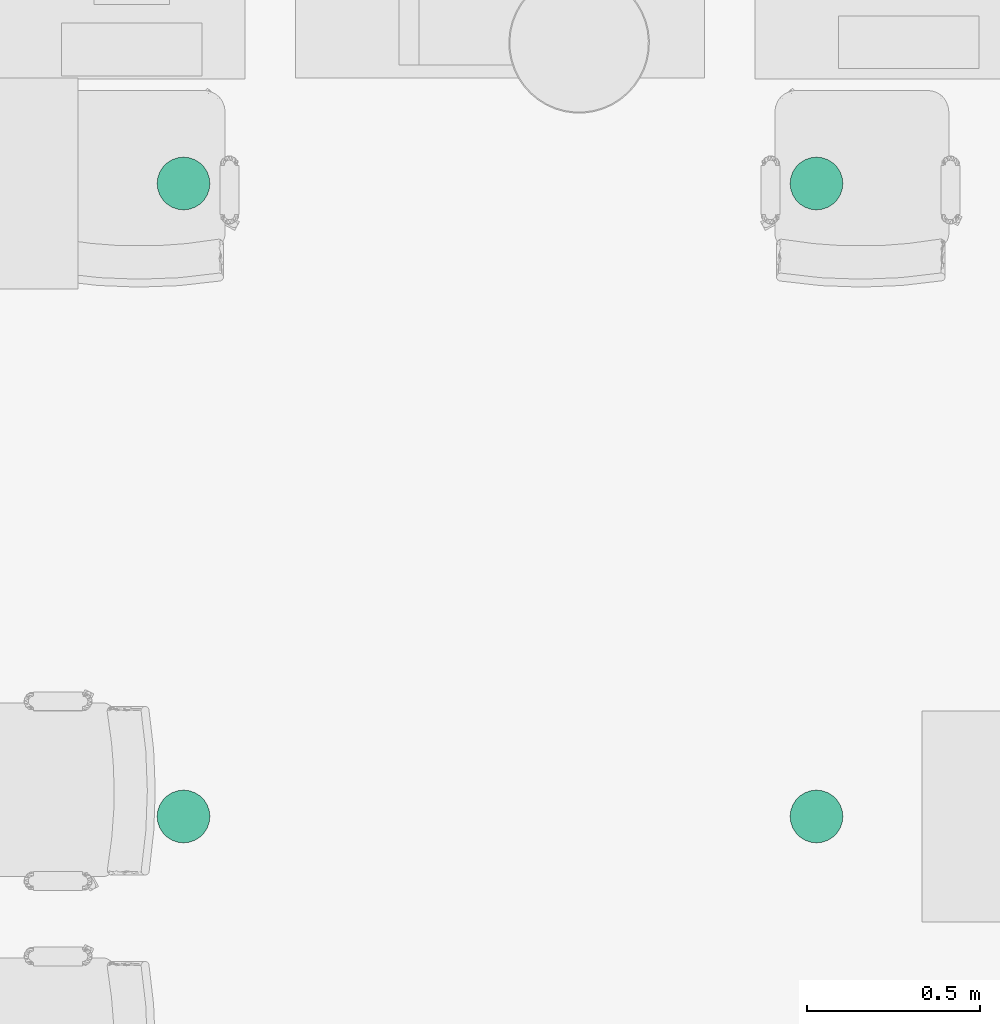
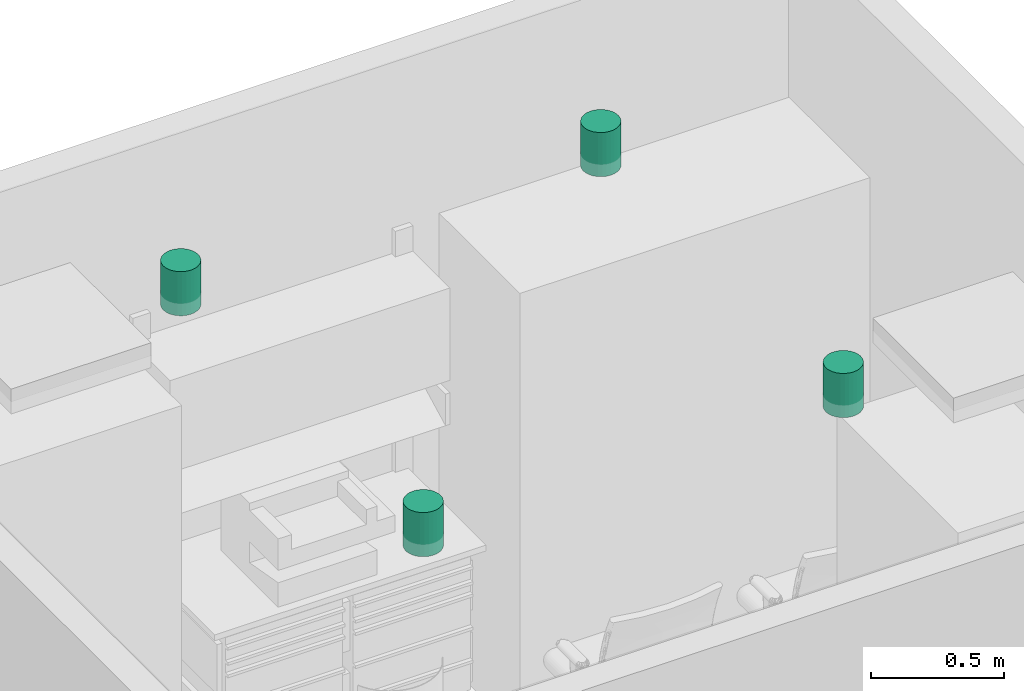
# One storey, part 4 of 15: 4 flow terminals.
"""IFC2X3 building model written with IfcOpenShell, lengths in feet."""

from ifc_helpers import new_model, entity, si_unit, converted_unit, derived_unit, direction, frame, frame_2d, origin, place, context, subcontext, project, spatial, circle, extrude, source, transform, mapped, type_object, type_shapes, element, save


model = new_model("IFC2X3")

# Units and contexts
model_context = context("Model", 3, precision=0.0001, world=origin(), true_north=direction((6.12303176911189e-17, 1.0)))
body_context = subcontext(model_context, "Body", "Model", "MODEL_VIEW")
ifc_project = project(units=[converted_unit("LENGTHUNIT", "FOOT", entity("IfcRatioMeasure", 0.3048), si_unit("LENGTHUNIT", "METRE"), dimensions=[1, 0, 0, 0, 0, 0, 0]), converted_unit("AREAUNIT", "SQUARE FOOT", entity("IfcRatioMeasure", 0.09290304), si_unit("AREAUNIT", "SQUARE_METRE"), dimensions=[2, 0, 0, 0, 0, 0, 0]), converted_unit("VOLUMEUNIT", "CUBIC FOOT", entity("IfcRatioMeasure", 0.028316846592), si_unit("VOLUMEUNIT", "CUBIC_METRE"), dimensions=[3, 0, 0, 0, 0, 0, 0]), converted_unit("PLANEANGLEUNIT", "DEGREE", entity("IfcRatioMeasure", 0.0174532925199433), si_unit("PLANEANGLEUNIT", "RADIAN"), dimensions=[0, 0, 0, 0, 0, 0, 0]), si_unit("MASSUNIT", "GRAM", prefix="KILO"), derived_unit("MASSDENSITYUNIT", [(si_unit("MASSUNIT", "GRAM", prefix="KILO"), 1), (si_unit("LENGTHUNIT", "METRE"), -3)]), si_unit("TIMEUNIT", "SECOND"), si_unit("FREQUENCYUNIT", "HERTZ"), si_unit("THERMODYNAMICTEMPERATUREUNIT", "DEGREE_CELSIUS"), derived_unit("THERMALTRANSMITTANCEUNIT", [(si_unit("MASSUNIT", "GRAM", prefix="KILO"), 1), (si_unit("THERMODYNAMICTEMPERATUREUNIT", "KELVIN"), -1), (si_unit("TIMEUNIT", "SECOND"), -3)]), derived_unit("VOLUMETRICFLOWRATEUNIT", [(si_unit("LENGTHUNIT", "METRE"), 3), (si_unit("TIMEUNIT", "SECOND"), -1)]), si_unit("ELECTRICCURRENTUNIT", "AMPERE"), si_unit("ELECTRICVOLTAGEUNIT", "VOLT"), si_unit("POWERUNIT", "WATT"), si_unit("FORCEUNIT", "NEWTON"), si_unit("ILLUMINANCEUNIT", "LUX"), si_unit("LUMINOUSFLUXUNIT", "LUMEN"), si_unit("LUMINOUSINTENSITYUNIT", "CANDELA"), derived_unit("USERDEFINED", [(si_unit("MASSUNIT", "GRAM", prefix="KILO"), -1), (si_unit("LENGTHUNIT", "METRE"), -2), (si_unit("TIMEUNIT", "SECOND"), 3), (si_unit("LUMINOUSFLUXUNIT", "LUMEN"), 1)]), derived_unit("LINEARVELOCITYUNIT", [(si_unit("LENGTHUNIT", "METRE"), 1), (si_unit("TIMEUNIT", "SECOND"), -1)]), si_unit("PRESSUREUNIT", "PASCAL"), derived_unit("USERDEFINED", [(si_unit("LENGTHUNIT", "METRE"), -2), (si_unit("MASSUNIT", "GRAM", prefix="KILO"), 1), (si_unit("TIMEUNIT", "SECOND"), -2)])], contexts=[model_context])

# Site, building, storey, space
site_placement = place(None, origin())
site = spatial("IfcSite", under=ifc_project, at=site_placement, Name="Default", CompositionType="ELEMENT")
building_placement = place(site_placement, origin())
building = spatial("IfcBuilding", under=site, at=building_placement, Name="EYE CLINIC:  OPTHALMOLOGY AND OPTOMETRY SERVICES (Ch. 233)", CompositionType="ELEMENT")
storey_placement = place(building_placement, origin())
storey = spatial("IfcBuildingStorey", under=building, at=storey_placement, Name="DATUM", CompositionType="ELEMENT", Elevation=0.0)
space_placement = place(storey_placement, origin())
space = spatial("IfcSpace", under=storey, at=space_placement, Name="(OPLV2)", CompositionType="ELEMENT", InteriorOrExteriorSpace="INTERNAL")

# Flow terminals
light_fixture_type = type_object("IfcLightFixtureType", Name="6\"", PredefinedType="NOTDEFINED")
shared_shape = source(origin(), body_context, "Body", "SweptSolid", [
    extrude(circle(Radius=0.25, at=frame_2d((0.0, -3.88578058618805e-16), x_axis=(1.0, 0.0))), frame((0.132132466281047, -0.159583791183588, 7.99242651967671)), (0.0, 0.0, 1.0), 0.666666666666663),
])
type_shapes(light_fixture_type, [shared_shape])
for number, where in (
    (1, (345.090970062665, 8.46720947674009, 1.00757348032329)),
    (2, (345.090970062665, 2.46720947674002, 1.00757348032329)),
    (3, (339.090970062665, 8.46720947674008, 1.00757348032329)),
    (4, (339.090970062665, 2.46720947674, 1.00757348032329)),
):
    element("IfcFlowTerminal", number, at=place(space_placement, frame(where)), inside=space, type_object=light_fixture_type, Name="Downlight - Recessed Can:6\"", ObjectType="6\"", context=body_context, shape_type="MappedRepresentation", body=[
        mapped(shared_shape, transform((0.0, 0.0, 0.0), scale=1.0)),
    ])

save(model, "model.ifc")
